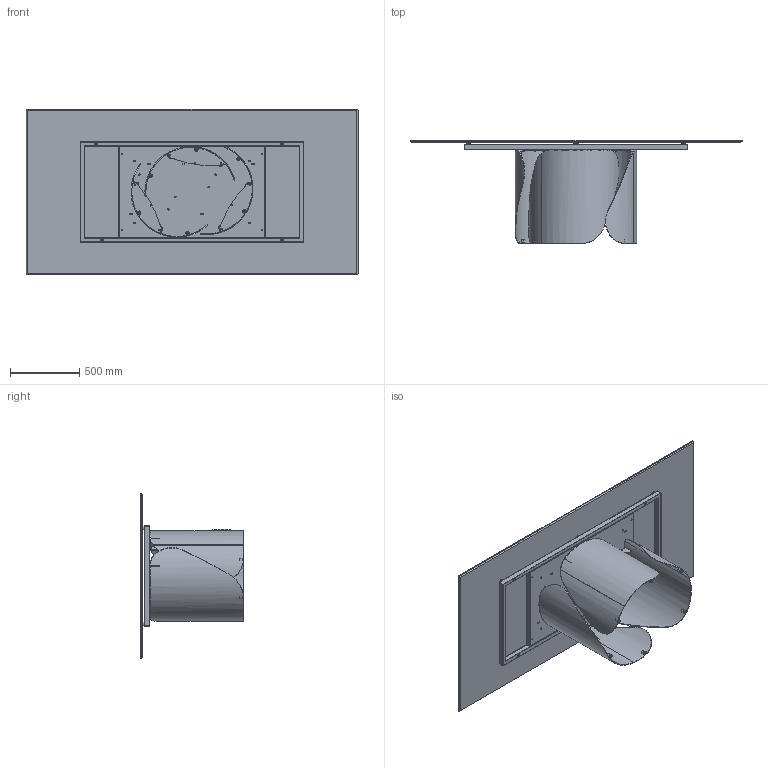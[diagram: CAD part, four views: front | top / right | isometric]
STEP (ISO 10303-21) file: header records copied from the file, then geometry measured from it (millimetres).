
FILE_DESCRIPTION (( 'STEP AP203' ), '1' );
FILE_NAME ('ON22C.STEP', '2024-08-06T13:51:22', ( '' ), ( '' ), 'SwSTEP 2.0', 'SolidWorks 2022', '' );
FILE_SCHEMA (( 'CONFIG_CONTROL_DESIGN' ));
Length unit declared in the file: millimetre
Products named in the file (15): COLLO TELAIO UNIVERSALE TTAV0601 CON FERRAMENTA_FERRAMENTA MTG TOP CRISTALLO VERNICIATO-CERAMICA; TTAV0601-00-TELAIO X TAVOLI PLAI ONDA NOA 240cm_TTAV06; K2XCMXX-00-Piani Rettangolari in ceramica_2390 x 1190; M8xXXmm_M8x20mm; TTAV0601_01-00-STRUTTURA X TAVOLI PLAI ONDA NOA 240; OND000000_01-00-PIASTRA SUPERIORE BASE ONDA; COLLO BASE ONDA SINGOLA CON FERRAMENTA; TTAV0601_02-00-VASSOIO TAVOLI PLAI ONDA NOA 240; rondella M8_8X24; PIEDINO PER ONDA; 434070-00-PIEDINO TPV GOMMA NERO D. 30x8max18_filo estetico; OND000000-03-ONDA BASE GREZZA; OND000000_03-00-LAMIERA CURVATA PRINCIPALE_OND00000X-00-ONDA BASE GREZZA PROTOTIPO; OND000000_02-00-CILINDRO DI FISSAGGIO Ø25X17 M8; ON22C
Assembly tree (45 placements, depth 4):
  ON22C
    COLLO TELAIO UNIVERSALE TTAV0601 CON FERRAMENTA_FERRAMENTA MTG TOP CRISTALLO VERNICIATO-CERAMICA
      TTAV0601-00-TELAIO X TAVOLI PLAI ONDA NOA 240cm_TTAV06
        TTAV0601_02-00-VASSOIO TAVOLI PLAI ONDA NOA 240
        TTAV0601_01-00-STRUTTURA X TAVOLI PLAI ONDA NOA 240
      434070-00-PIEDINO TPV GOMMA NERO D. 30x8max18_filo estetico  x6
    COLLO BASE ONDA SINGOLA CON FERRAMENTA  x3
      OND000000-03-ONDA BASE GREZZA
        OND000000_03-00-LAMIERA CURVATA PRINCIPALE_OND00000X-00-ONDA BASE GREZZA PROTOTIPO
        OND000000_01-00-PIASTRA SUPERIORE BASE ONDA
        OND000000_02-00-CILINDRO DI FISSAGGIO Ø25X17 M8  x2
      PIEDINO PER ONDA
    rondella M8_8X24  x12
    M8xXXmm_M8x20mm  x12
    K2XCMXX-00-Piani Rettangolari in ceramica_2390 x 1190
Bounding box: 2390 x 742 x 1190 mm (x, y, z)
Volume: 58194056.6 mm3; surface area: 17750744.5 mm2
Topology: 64 solids, 64 shells, 1565 faces, 3545 edges, 2138 vertices
Faces by surface type: plane 592, cylinder 501, cone 212, torus 192, bspline 60, sphere 8
Entity records: 21751 total; most frequent: CARTESIAN_POINT 4922, DIRECTION 3128, ORIENTED_EDGE 2890, EDGE_CURVE 1445, AXIS2_PLACEMENT_3D 1166, VERTEX_POINT 886, LINE 796, VECTOR 796
